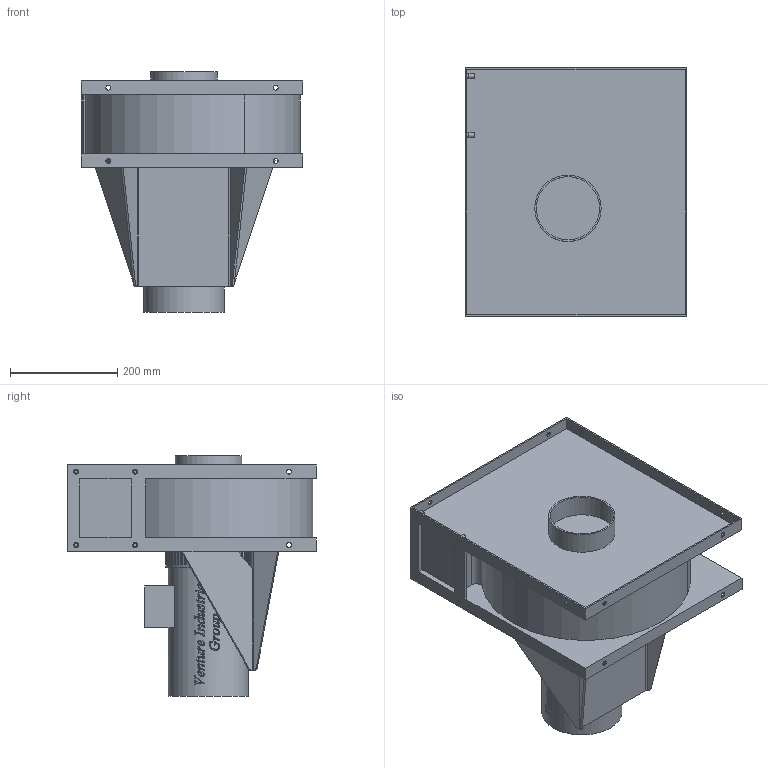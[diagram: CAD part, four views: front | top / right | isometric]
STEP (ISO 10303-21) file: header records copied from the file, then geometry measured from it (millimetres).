
FILE_DESCRIPTION(/* description */ (''),/* implementation_level */ '2;1');
FILE_NAME(/* name */ 'E:\Mariusz\Modele uproszczone\GMT-HT\Katalogowe\GMT_HT_100_075T RD90 43552415\GMT_HT_100_075T RD90 43552415\GMT_HT_100_075T RD90 43552415.stp',/* time_stamp */ '2019-10-31T09:26:14+01:00',/* author */ ('M.Janczarek'),/* organization */ (''),/* preprocessor_version */ 'ST-DEVELOPER v16.13',/* originating_system */ 'Autodesk Inventor 2018',/* authorisation */ '');
FILE_SCHEMA (('AUTOMOTIVE_DESIGN { 1 0 10303 214 3 1 1 }'));
Products named in the file (1): GMT_HT_100_075T RD180 43552415
Bounding box: 413 x 463 x 448.3 mm (x, y, z)
Volume: 23601650.1 mm3; surface area: 1216041.6 mm2
Topology: 1 solids, 1 shells, 1222 faces, 3300 edges, 2198 vertices
Faces by surface type: bspline 654, plane 282, cylinder 274, cone 12
Full cylindrical faces by diameter (mm): 6 x4, 7 x4, 8.9 x4, 9.2 x18, 118 x1, 124 x1, 149.9 x1, 160 x1, 370 x1
Entity records: 53206 total; most frequent: CARTESIAN_POINT 26472, ORIENTED_EDGE 6484, DIRECTION 3322, EDGE_CURVE 3240, VERTEX_POINT 2184, LINE 1576, VECTOR 1576, EDGE_LOOP 1424
